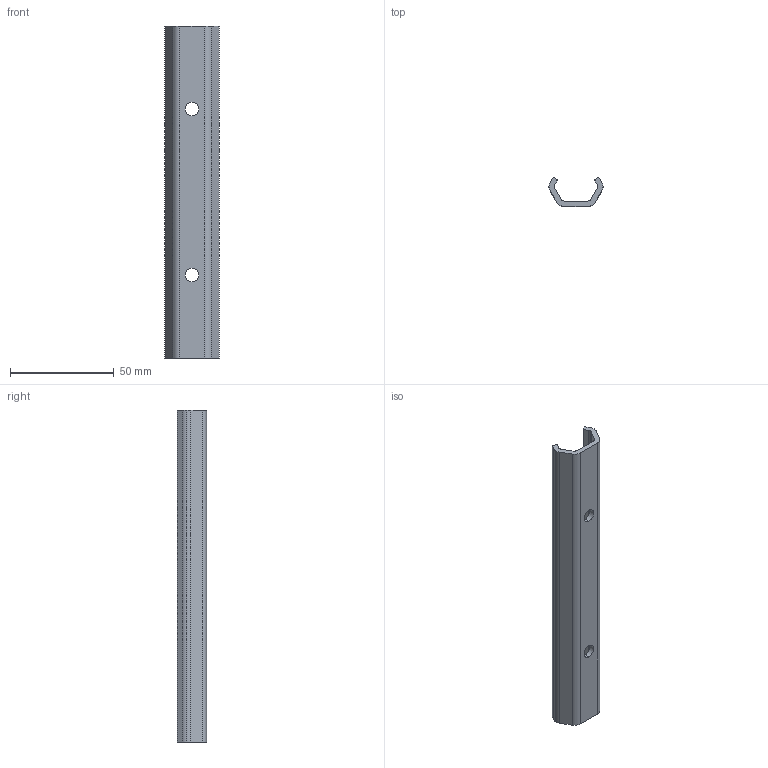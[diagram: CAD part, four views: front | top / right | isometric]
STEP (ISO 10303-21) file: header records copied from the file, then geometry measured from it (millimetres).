
FILE_DESCRIPTION(('STEP AP214'),'1');
FILE_NAME('rail_tex26-160.stp','2019-03-08T08:28:45',('TraceParts'),('TraceParts S.A.'),'Spatial InterOp 3D',' ',' ');
FILE_SCHEMA(('automotive_design'));
Length unit declared in the file: millimetre
Products named in the file (1): rail_tex26-160
Bounding box: 26.06 x 14 x 160 mm (x, y, z)
Volume: 16551.3 mm3; surface area: 14313.7 mm2
Topology: 1 solids, 1 shells, 87 faces, 228 edges, 152 vertices
Faces by surface type: plane 60, cylinder 16, bspline 11
Entity records: 5073 total; most frequent: CARTESIAN_POINT 2235, ORIENTED_EDGE 456, DIRECTION 392, EDGE_CURVE 228, LINE 174, VECTOR 174, VERTEX_POINT 152, AXIS2_PLACEMENT_3D 109
